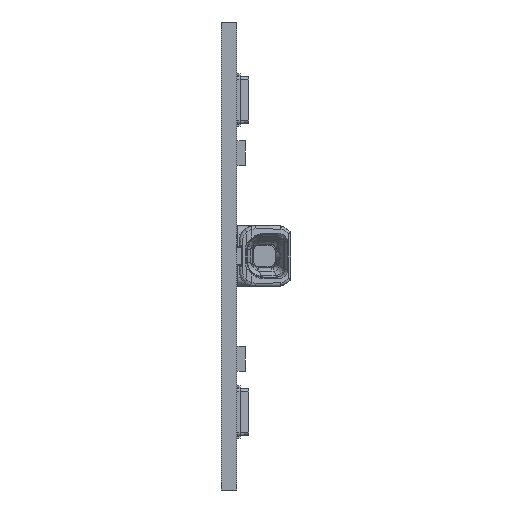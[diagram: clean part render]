
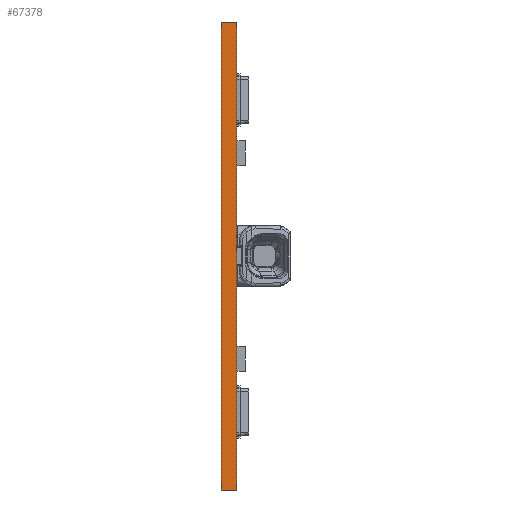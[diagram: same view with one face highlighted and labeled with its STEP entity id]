
A CAD part, left-side view. The second image highlights one B-rep face of the part: STEP entity #67378.
In plain terms, the highlighted planar face has unit normal (-1, 0, 0).
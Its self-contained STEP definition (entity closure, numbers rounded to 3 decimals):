
#1011=LINE('',#84883,#5881);
#1031=LINE('',#84958,#5901);
#1054=LINE('',#85018,#5924);
#1070=LINE('',#85051,#5940);
#5881=VECTOR('',#73201,1000.);
#5901=VECTOR('',#73257,1000.);
#5924=VECTOR('',#73312,1000.);
#5940=VECTOR('',#73362,1000.);
#11578=ORIENTED_EDGE('',*,*,#28674,.F.);
#11579=ORIENTED_EDGE('',*,*,#28743,.F.);
#11580=ORIENTED_EDGE('',*,*,#28711,.T.);
#11581=ORIENTED_EDGE('',*,*,#28759,.T.);
#28674=EDGE_CURVE('',#37314,#37315,#1011,.T.);
#28711=EDGE_CURVE('',#37351,#37352,#1031,.T.);
#28743=EDGE_CURVE('',#37351,#37314,#1054,.T.);
#28759=EDGE_CURVE('',#37352,#37315,#1070,.T.);
#37314=VERTEX_POINT('',#84884);
#37315=VERTEX_POINT('',#84885);
#37351=VERTEX_POINT('',#84959);
#37352=VERTEX_POINT('',#84960);
#46649=EDGE_LOOP('',(#11578,#11579,#11580,#11581));
#49177=FACE_BOUND('',#46649,.T.);
#51659=PLANE('',#69938);
#67378=ADVANCED_FACE('',(#49177),#51659,.T.);
#69938=AXIS2_PLACEMENT_3D('',#85052,#73363,#73364);
#73201=DIRECTION('',(0.,0.,-1.));
#73257=DIRECTION('',(0.,0.,-1.));
#73312=DIRECTION('',(0.,-1.,0.));
#73362=DIRECTION('',(0.,-1.,0.));
#73363=DIRECTION('',(-1.,0.,0.));
#73364=DIRECTION('',(0.,0.,1.));
#84883=CARTESIAN_POINT('',(-138.5,0.,15.));
#84884=CARTESIAN_POINT('',(-138.5,0.,15.));
#84885=CARTESIAN_POINT('',(-138.5,0.,-15.));
#84958=CARTESIAN_POINT('',(-138.5,1.,15.));
#84959=CARTESIAN_POINT('',(-138.5,1.,15.));
#84960=CARTESIAN_POINT('',(-138.5,1.,-15.));
#85018=CARTESIAN_POINT('',(-138.5,1.,15.));
#85051=CARTESIAN_POINT('',(-138.5,1.,-15.));
#85052=CARTESIAN_POINT('',(-138.5,1.,15.));
